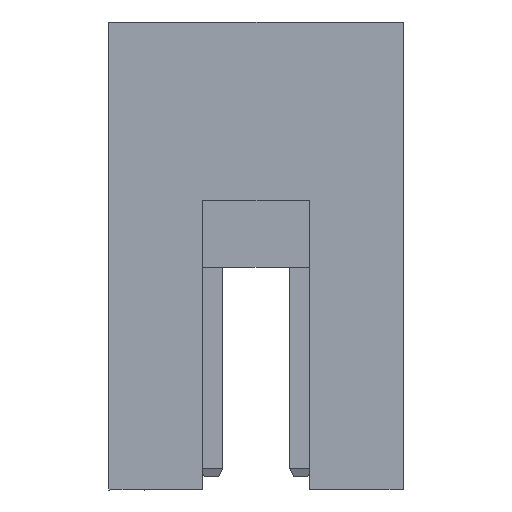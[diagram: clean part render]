
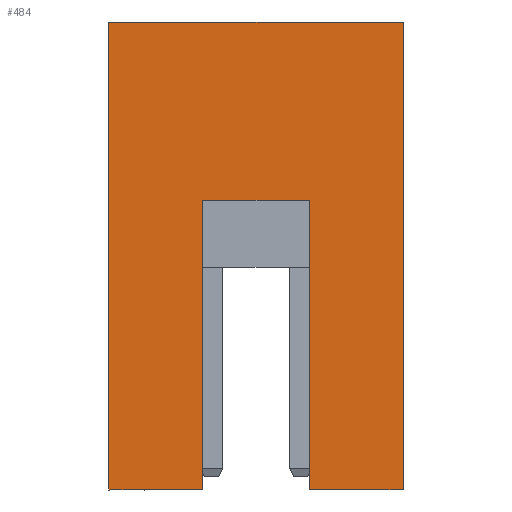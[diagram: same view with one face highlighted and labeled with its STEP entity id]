
A CAD part, left-side view. The second image highlights one B-rep face of the part: STEP entity #484.
In plain terms, the highlighted planar face has unit normal (-1, 0, 0).
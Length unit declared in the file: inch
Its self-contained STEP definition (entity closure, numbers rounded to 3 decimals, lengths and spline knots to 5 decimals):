
#484=ADVANCED_FACE('',(#1097),#830,.T.);
#830=PLANE('',#7318);
#1097=FACE_OUTER_BOUND('',#1520,.T.);
#1520=EDGE_LOOP('',(#2096,#2097,#2098,#2099,#2100,#2101,#2102,#2103));
#2096=ORIENTED_EDGE('',*,*,#4738,.T.);
#2097=ORIENTED_EDGE('',*,*,#4677,.T.);
#2098=ORIENTED_EDGE('',*,*,#4795,.T.);
#2099=ORIENTED_EDGE('',*,*,#4770,.F.);
#2100=ORIENTED_EDGE('',*,*,#4796,.F.);
#2101=ORIENTED_EDGE('',*,*,#4681,.T.);
#2102=ORIENTED_EDGE('',*,*,#4753,.F.);
#2103=ORIENTED_EDGE('',*,*,#4778,.T.);
#3996=VERTEX_POINT('',#9492);
#4001=VERTEX_POINT('',#9502);
#4005=VERTEX_POINT('',#9511);
#4006=VERTEX_POINT('',#9513);
#4057=VERTEX_POINT('',#9624);
#4069=VERTEX_POINT('',#9651);
#4082=VERTEX_POINT('',#9680);
#4085=VERTEX_POINT('',#9685);
#4677=EDGE_CURVE('',#3996,#4001,#5703,.T.);
#4681=EDGE_CURVE('',#4006,#4005,#5707,.T.);
#4738=EDGE_CURVE('',#4057,#3996,#5763,.T.);
#4753=EDGE_CURVE('',#4069,#4005,#5772,.T.);
#4770=EDGE_CURVE('',#4085,#4082,#5783,.T.);
#4778=EDGE_CURVE('',#4069,#4057,#5790,.T.);
#4795=EDGE_CURVE('',#4001,#4082,#5806,.T.);
#4796=EDGE_CURVE('',#4006,#4085,#5807,.T.);
#5703=LINE('',#9503,#6503);
#5707=LINE('',#9512,#6507);
#5763=LINE('',#9623,#6563);
#5772=LINE('',#9652,#6572);
#5783=LINE('',#9686,#6583);
#5790=LINE('',#9701,#6590);
#5806=LINE('',#9734,#6606);
#5807=LINE('',#9735,#6607);
#6503=VECTOR('',#7776,1.);
#6507=VECTOR('',#7782,1.);
#6563=VECTOR('',#7846,1.);
#6572=VECTOR('',#7869,1.);
#6583=VECTOR('',#7894,1.);
#6590=VECTOR('',#7911,1.);
#6606=VECTOR('',#7939,1.);
#6607=VECTOR('',#7940,1.);
#7318=AXIS2_PLACEMENT_3D('',#9736,#7941,#7942);
#7776=DIRECTION('',(0.,-1.,0.));
#7782=DIRECTION('',(0.,-1.,0.));
#7846=DIRECTION('',(0.,0.,-1.));
#7869=DIRECTION('',(0.,0.,-1.));
#7894=DIRECTION('',(0.,1.,0.));
#7911=DIRECTION('',(0.,1.,0.));
#7939=DIRECTION('',(0.,0.,1.));
#7940=DIRECTION('',(0.,0.,1.));
#7941=DIRECTION('',(-1.,0.,0.));
#7942=DIRECTION('',(0.,0.,1.));
#9492=CARTESIAN_POINT('',(-0.27339,0.165,-0.907));
#9502=CARTESIAN_POINT('',(-0.27339,0.06,-0.907));
#9503=CARTESIAN_POINT('',(-0.27339,0.165,-0.907));
#9511=CARTESIAN_POINT('',(-0.27339,-0.165,-0.907));
#9512=CARTESIAN_POINT('',(-0.27339,0.165,-0.907));
#9513=CARTESIAN_POINT('',(-0.27339,-0.06,-0.907));
#9623=CARTESIAN_POINT('',(-0.27339,0.165,-0.907));
#9624=CARTESIAN_POINT('',(-0.27339,0.165,-0.382));
#9651=CARTESIAN_POINT('',(-0.27339,-0.165,-0.382));
#9652=CARTESIAN_POINT('',(-0.27339,-0.165,-0.907));
#9680=CARTESIAN_POINT('',(-0.27339,0.06,-0.582));
#9685=CARTESIAN_POINT('',(-0.27339,-0.06,-0.582));
#9686=CARTESIAN_POINT('',(-0.27339,0.,-0.582));
#9701=CARTESIAN_POINT('',(-0.27339,0.,-0.382));
#9734=CARTESIAN_POINT('',(-0.27339,0.06,-0.657));
#9735=CARTESIAN_POINT('',(-0.27339,-0.06,-0.657));
#9736=CARTESIAN_POINT('',(-0.27339,0.165,-0.617));
